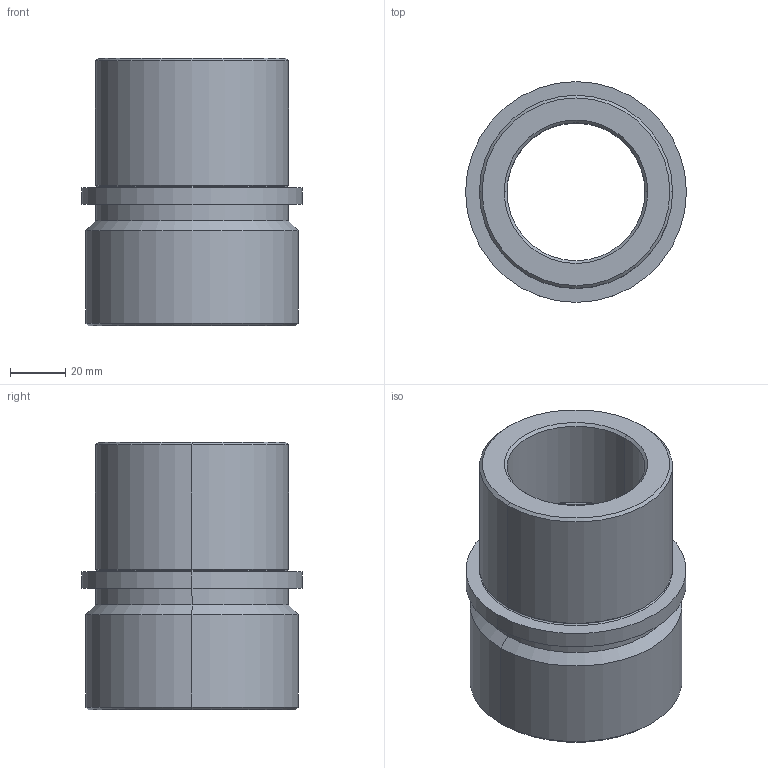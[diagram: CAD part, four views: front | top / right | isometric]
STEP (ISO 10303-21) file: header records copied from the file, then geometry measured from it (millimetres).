
FILE_DESCRIPTION (( 'STEP AP214' ), '1' );
FILE_NAME ('Casquillo SB500-50-97.STEP', '2018-11-27T12:09:46', ( '' ), ( '' ), 'SwSTEP 2.0', 'SolidWorks 2018', '' );
FILE_SCHEMA (( 'AUTOMOTIVE_DESIGN' ));
Length unit declared in the file: millimetre
Products named in the file (1): Casquillo SB500-50-97
Bounding box: 80 x 80 x 97 mm (x, y, z)
Volume: 218675.5 mm3; surface area: 44673.6 mm2
Topology: 1 solids, 1 shells, 40 faces, 80 edges, 44 vertices
Faces by surface type: cylinder 14, torus 12, cone 10, plane 4
Entity records: 1074 total; most frequent: DIRECTION 218, CARTESIAN_POINT 165, ORIENTED_EDGE 160, AXIS2_PLACEMENT_3D 97, EDGE_CURVE 80, CIRCLE 56, EDGE_LOOP 44, VERTEX_POINT 44
